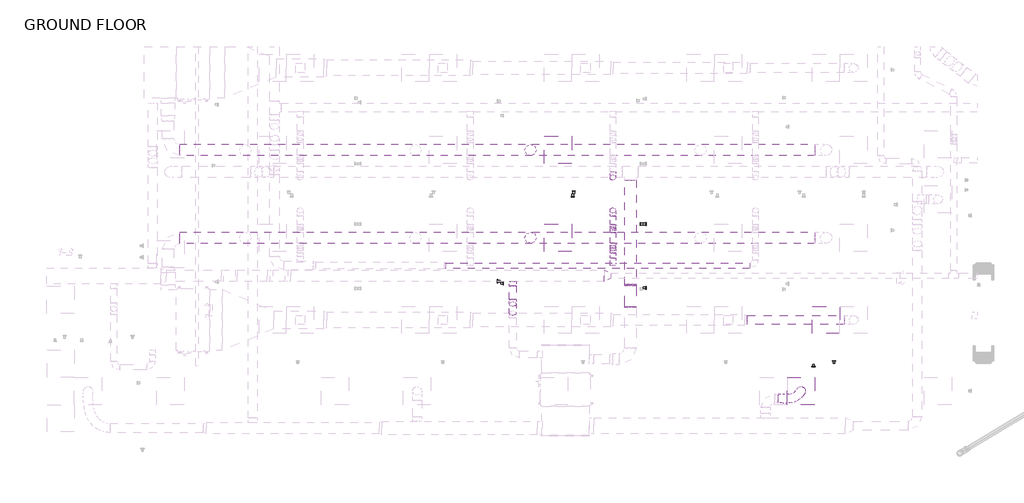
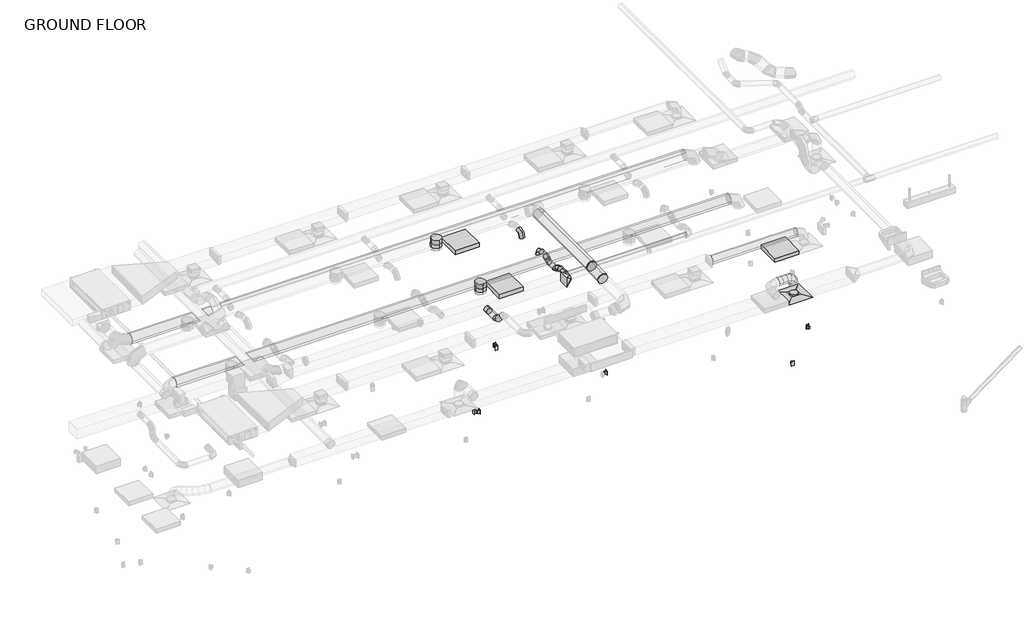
# One storey, part 5 of 22: 18 duct segments, 14 duct fittings, 7 proxies, 3 light fixtures, 1 air terminal, 1 electric appliance, 1 switching device.
"""IFC4 building model written with IfcOpenShell, lengths in millimetres."""

from ifc_helpers import new_model, si_unit, point, frame, frame_2d, origin, place, context, project, spatial, circle_curve, ellipse_curve, trimmed, segment, composite_curve, outline, extrude, transform, mapped, element, save
from ifc_brep_helpers import plane_surface, cylinder_surface, advanced_brep
from components import air_terminal_e9020785, duplex_receptacle_countertop_10251bba, rectangular_to_round_transition_angle_45_degree_43dd9c00, round_elbow_1_d_c80420c1, round_elbow_1_d_9a27e954, round_elbow_1_d_e3dc691b, round_elbow_1_d_e085309a, round_elbow_1_d_538d8ec8, round_elbow_1_d_400cd2ab, round_elbow_1_d_88736f48, round_takeoff_standard_0a2b6d05, round_takeoff_standard_c386a54e, round_takeoff_standard_c5a1f659, round_takeoff_standard_cae0fe22, telephone_outlet_data_plain_18c24199, troffer_corner_insert_2x2_3lamp_e67c7f8f

model = new_model("IFC4")

# Units and contexts
model_context = context("Model", 3, world=origin())
ifc_project = project(units=[si_unit("LENGTHUNIT", "METRE", prefix="MILLI")], contexts=[model_context])

# Site, building, storey
site = spatial("IfcSite", under=ifc_project)
building = spatial("IfcBuilding", under=site)
storey = spatial("IfcBuildingStorey", under=building, Name="GROUND FLOOR", Elevation=30480.0)

# Air terminal
placement = place(None, origin())
air_terminal_shape = air_terminal_e9020785(model_context)
element("IfcAirTerminal", 1, ObjectType="Supply Diffuser - Rectangular Face Round Neck - Hosted : 24\"x24\" Face 8\" Neck - Hosted", at=placement, inside=storey, context=model_context, shape_type="MappedRepresentation", body=[
    mapped(air_terminal_shape, transform((7163.7545393, -5809.2554995, 33223.2), x_axis=(0.0, -1.0, 0.0), y_axis=(-1.0, 0.0, 0.0), z_axis=(0.0, 0.0, -1.0))),
])

# Proxies
duplex_receptacle_countertop_shape = duplex_receptacle_countertop_10251bba(model_context)
element("IfcBuildingElementProxy", 2, Name="Duplex Receptacle : Countertop", ObjectType="Duplex Receptacle : Countertop", at=placement, inside=storey, context=model_context, shape_type="MappedRepresentation", body=[
    mapped(duplex_receptacle_countertop_shape, transform((3591.8795393, -2094.5054995, 30937.2), x_axis=(0.0, -1.0, 0.0), y_axis=(0.0, 0.0, 1.0), z_axis=(-1.0, 0.0, 0.0))),
])
element("IfcBuildingElementProxy", 3, Name="Duplex Receptacle : Countertop", ObjectType="Duplex Receptacle : Countertop", at=placement, inside=storey, context=model_context, shape_type="MappedRepresentation", body=[
    mapped(duplex_receptacle_countertop_shape, transform((3715.7045393, -2094.5054995, 30937.2), x_axis=(0.0, 1.0, 0.0), y_axis=(0.0, 0.0, 1.0), z_axis=(1.0, 0.0, 0.0))),
])
element("IfcBuildingElementProxy", 4, Name="Duplex Receptacle : Standard", ObjectType="Duplex Receptacle : Standard", at=placement, inside=storey, context=model_context, shape_type="MappedRepresentation", body=[
    mapped(duplex_receptacle_countertop_shape, transform((420.0545393, -3366.5857363, 30937.2), x_axis=(0.0, -1.0, 0.0), y_axis=(0.0, 0.0, 1.0), z_axis=(-1.0, 0.0, 0.0))),
])
element("IfcBuildingElementProxy", 5, Name="Duplex Receptacle : Standard", ObjectType="Duplex Receptacle : Standard", at=placement, inside=storey, context=model_context, shape_type="MappedRepresentation", body=[
    mapped(duplex_receptacle_countertop_shape, transform((2089.2187967, -1484.9054995, 30937.2), x_axis=(1.0, 0.0, 0.0), y_axis=(0.0, 0.0, 1.0), z_axis=(0.0, -1.0, 0.0))),
])
element("IfcBuildingElementProxy", 6, Name="Duplex Receptacle : Standard", ObjectType="Duplex Receptacle : Standard", at=placement, inside=storey, context=model_context, shape_type="MappedRepresentation", body=[
    mapped(duplex_receptacle_countertop_shape, transform((543.8795393, -3410.6637519, 30937.2), x_axis=(0.0, 1.0, 0.0), y_axis=(0.0, 0.0, 1.0), z_axis=(1.0, 0.0, 0.0))),
])
element("IfcBuildingElementProxy", 7, Name="Duplex Receptacle : Standard", ObjectType="Duplex Receptacle : Standard", at=placement, inside=storey, context=model_context, shape_type="MappedRepresentation", body=[
    mapped(duplex_receptacle_countertop_shape, transform((2111.2578044, -1361.0804995, 30937.2), x_axis=(-1.0, 0.0, 0.0), y_axis=(0.0, 0.0, 1.0), z_axis=(0.0, 1.0, 0.0))),
])
element("IfcBuildingElementProxy", 8, Name="Duplex Receptacle : Standard", ObjectType="Duplex Receptacle : Standard", at=placement, inside=storey, context=model_context, shape_type="MappedRepresentation", body=[
    mapped(duplex_receptacle_countertop_shape, transform((7444.6976826, -5266.3304995, 30937.2), x_axis=(1.0, 0.0, 0.0), y_axis=(0.0, 0.0, 1.0), z_axis=(0.0, -1.0, 0.0))),
])

# Duct fittings
rectangular_to_round_transition_angle_45_degree_shape = rectangular_to_round_transition_angle_45_degree_43dd9c00(model_context)
element("IfcDuctFitting", 9, ObjectType="Rectangular to Round Transition - Angle : 45 Degree", at=placement, inside=storey, context=model_context, shape_type="MappedRepresentation", body=[
    mapped(rectangular_to_round_transition_angle_45_degree_shape, transform((2787.255189, -3245.6216457, 33602.867541), x_axis=(1.0, 0.0, 0.0), y_axis=(0.0, 1.0, 0.0), z_axis=(0.0, 0.0, 1.0))),
])
round_elbow_1_d_shape = round_elbow_1_d_c80420c1(model_context)
element("IfcDuctFitting", 10, ObjectType="Round Elbow : 1 D", at=placement, inside=storey, context=model_context, shape_type="MappedRepresentation", body=[
    mapped(round_elbow_1_d_shape, transform((2982.2795393, -1056.2804995, 33477.2), x_axis=(0.0, -1.0, 0.0), y_axis=(0.0, 0.0, -1.0), z_axis=(1.0, 0.0, 0.0))),
])
round_elbow_1_d_2_shape = round_elbow_1_d_9a27e954(model_context)
element("IfcDuctFitting", 11, ObjectType="Round Elbow : 1 D", at=placement, inside=storey, context=model_context, shape_type="MappedRepresentation", body=[
    mapped(round_elbow_1_d_2_shape, transform((752.8182219, -3830.5749464, 33602.867541), x_axis=(0.0, -1.0, 0.0), y_axis=(0.0, 0.0, 1.0), z_axis=(-1.0, 0.0, 0.0))),
])
round_elbow_1_d_3_shape = round_elbow_1_d_e3dc691b(model_context)
element("IfcDuctFitting", 12, ObjectType="Round Elbow : 1 D", at=placement, inside=storey, context=model_context, shape_type="MappedRepresentation", body=[
    mapped(round_elbow_1_d_3_shape, transform((2982.2795393, -2571.0260053, 33410.2114474), x_axis=(0.0, 0.7071067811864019, -0.7071067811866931), y_axis=(0.0, 0.7071067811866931, 0.7071067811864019), z_axis=(1.0, 0.0, 0.0))),
])
element("IfcDuctFitting", 13, ObjectType="Round Elbow : 1 D", at=placement, inside=storey, context=model_context, shape_type="MappedRepresentation", body=[
    mapped(round_elbow_1_d_3_shape, transform((2982.2795393, -2688.8145579, 33528.0), x_axis=(0.0, -0.707106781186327, 0.7071067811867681), y_axis=(0.0, -0.7071067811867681, -0.707106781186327), z_axis=(1.0, 0.0, 0.0))),
])
round_elbow_1_d_4_shape = round_elbow_1_d_e085309a(model_context)
element("IfcDuctFitting", 14, ObjectType="Round Elbow : 1 D", at=placement, inside=storey, context=model_context, shape_type="MappedRepresentation", body=[
    mapped(round_elbow_1_d_4_shape, transform((3373.2082034, -3453.3930718, 33883.6), x_axis=(0.0, -1.0, 0.0), y_axis=(0.0, 0.0, -1.0), z_axis=(1.0, 0.0, 0.0))),
])
element("IfcDuctFitting", 15, ObjectType="Round Elbow : 1 D", at=placement, inside=storey, context=model_context, shape_type="MappedRepresentation", body=[
    mapped(round_elbow_1_d_4_shape, transform((3373.2082034, -3943.4269358, 33846.29375), x_axis=(0.0, 1.0, 0.0), y_axis=(0.0, 0.0, 1.0), z_axis=(1.0, 0.0, 0.0))),
])
round_elbow_1_d_5_shape = round_elbow_1_d_538d8ec8(model_context)
element("IfcDuctFitting", 16, ObjectType="Round Elbow : 1 D", at=placement, inside=storey, context=model_context, shape_type="MappedRepresentation", body=[
    mapped(round_elbow_1_d_5_shape, transform((2982.2795393, -2238.2198452, 33410.2114474), x_axis=(0.0, -0.8191520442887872, -0.5735764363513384), y_axis=(0.0, -0.5735764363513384, 0.8191520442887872), z_axis=(-1.0, 0.0, 0.0))),
])
round_elbow_1_d_6_shape = round_elbow_1_d_400cd2ab(model_context)
element("IfcDuctFitting", 17, ObjectType="Round Elbow : 1 D", at=placement, inside=storey, context=model_context, shape_type="MappedRepresentation", body=[
    mapped(round_elbow_1_d_6_shape, transform((2982.2795393, -1789.7054995, 33477.2), x_axis=(0.0, 1.0, 0.0), y_axis=(0.0, 0.0, 1.0), z_axis=(1.0, 0.0, 0.0))),
])
round_elbow_1_d_7_shape = round_elbow_1_d_88736f48(model_context)
element("IfcDuctFitting", 18, ObjectType="Round Elbow : 1 D", at=placement, inside=storey, context=model_context, shape_type="MappedRepresentation", body=[
    mapped(round_elbow_1_d_7_shape, transform((2982.2795393, -2142.5502773, 33477.2), x_axis=(0.0, -1.0, 0.0), y_axis=(0.0, 0.0, 1.0), z_axis=(-1.0, 0.0, 0.0))),
])
round_takeoff_standard_shape = round_takeoff_standard_0a2b6d05(model_context)
element("IfcDuctFitting", 19, ObjectType="Round Takeoff : Standard", at=placement, inside=storey, context=model_context, shape_type="MappedRepresentation", body=[
    mapped(round_takeoff_standard_shape, transform((752.8182219, -3372.6216457, 33602.867541), x_axis=(0.0, -1.0, 0.0), y_axis=(1.0, 0.0, 0.0), z_axis=(0.0, 0.0, 1.0))),
])
round_takeoff_standard_2_shape = round_takeoff_standard_c386a54e(model_context)
element("IfcDuctFitting", 20, ObjectType="Round Takeoff : Standard", at=placement, inside=storey, context=model_context, shape_type="MappedRepresentation", body=[
    mapped(round_takeoff_standard_2_shape, transform((1153.4795393, -446.6804995, 33490.69375), x_axis=(0.0, 0.0, -1.0), y_axis=(-1.0, 0.0, 0.0), z_axis=(0.0, 1.0, 0.0))),
])
round_takeoff_standard_3_shape = round_takeoff_standard_c5a1f659(model_context)
element("IfcDuctFitting", 21, ObjectType="Round Takeoff : Standard", at=placement, inside=storey, context=model_context, shape_type="MappedRepresentation", body=[
    mapped(round_takeoff_standard_3_shape, transform((1153.4795393, -2399.3054995, 33490.69375), x_axis=(0.0, 0.0, -1.0), y_axis=(-1.0, 0.0, 0.0), z_axis=(0.0, 1.0, 0.0))),
])
round_takeoff_standard_4_shape = round_takeoff_standard_cae0fe22(model_context)
element("IfcDuctFitting", 22, ObjectType="Round Takeoff : Standard", at=placement, inside=storey, context=model_context, shape_type="MappedRepresentation", body=[
    mapped(round_takeoff_standard_4_shape, transform((2982.2795393, -2955.5145579, 33528.0), x_axis=(0.0, 1.0, 0.0), y_axis=(1.0, 0.0, 0.0), z_axis=(0.0, 0.0, -1.0))),
])

# Duct segments
element("IfcDuctSegment", 23, ObjectType="Flex - Round", at=placement, inside=storey, context=model_context, shape_type="AdvancedBrep", body=[
    advanced_brep(
    [(6657.0154749, -5873.2850038, 33832.8), (6657.0154749, -5974.8850038, 33731.2), (6657.0154749, -6076.4850038, 33832.8), (6657.0154749, -5974.8850038, 33934.4), (6664.1604734, -5873.2850038, 33832.8), (6665.7378942, -5974.8850038, 33731.2), (6661.2728618, -6076.4850038, 33832.8), (6659.6954409, -5974.8850038, 33934.4), (7129.0124065, -5713.7801403, 33277.175), (7259.2298985, -5774.5133667, 33277.175), (7198.4966721, -5904.7308586, 33277.175), (7068.2791801, -5843.9976323, 33277.175), (6761.7393941, -5876.0613465, 33838.6096182), (6764.2748739, -5977.6886054, 33737.0666588), (6757.0979688, -6079.2114465, 33838.5052003), (6754.5624889, -5977.5841875, 33940.0481597), (6856.6277847, -5877.7028295, 33842.044493), (6852.1190413, -5979.2082298, 33740.246539), (6864.8566466, -6081.0755738, 33842.405968), (6869.3653901, -5979.5701735, 33944.203922), (6931.5454276, -5870.2568398, 33826.4432762), (6909.7778917, -5973.4775742, 33728.2393776), (6969.4566581, -6070.6794831, 33820.6235494), (6991.2241939, -5967.4587487, 33918.8274479), (6991.5818588, -5850.531499, 33783.6357716), (6953.2151869, -5959.2059823, 33697.2674799), (7053.4419158, -6043.0856073, 33760.7399215), (7091.8085877, -5934.411124, 33847.1082133), (7042.2601994, -5820.1278131, 33712.3335862), (6994.1395219, -5934.654061, 33639.6887492), (7113.2263536, -6007.2188593, 33676.6258598), (7161.3470311, -5892.6926114, 33749.2706968), (7081.4386198, -5784.4954246, 33618.3222411), (7027.690537, -5904.1397424, 33559.1807545), (7154.2398269, -5969.9175083, 33578.2111776), (7207.9879096, -5850.2731906, 33637.3526642), (7108.4914029, -5750.2738045, 33509.6614918), (7051.0725508, -5874.561625, 33465.2640908), (7180.3960787, -5936.8299952, 33473.1514537), (7237.8149309, -5812.5421747, 33517.5488548), (7124.0629565, -5724.2123836, 33393.9600667), (7064.2109738, -5852.5724273, 33367.6415734), (7194.3387271, -5913.4948009, 33369.5532945), (7254.1907099, -5785.1347572, 33395.8717878), (7129.0124065, -5713.7801403, 33291.4495769), (7068.2791801, -5843.9976323, 33283.3829523), (7198.4966721, -5904.7308586, 33283.4360529), (7259.2298985, -5774.5133667, 33291.5026776)],
    [
        (0, 1, circle_curve(frame((6657.0154749, -5974.8850038, 33832.8), z_axis=(-1.0, 0.0, 0.0), x_axis=(0.0, 1.0, 0.0)), 101.6)),
        (1, 2, circle_curve(frame((6657.0154749, -5974.8850038, 33832.8), z_axis=(-1.0, 0.0, 0.0), x_axis=(0.0, 1.0, 0.0)), 101.6)),
        (2, 3, circle_curve(frame((6657.0154749, -5974.8850038, 33832.8), z_axis=(-1.0, 0.0, 0.0), x_axis=(0.0, 1.0, 0.0)), 101.6)),
        (3, 0, circle_curve(frame((6657.0154749, -5974.8850038, 33832.8), z_axis=(-1.0, 0.0, 0.0), x_axis=(0.0, 1.0, 0.0)), 101.6)),
        (0, 4),
        (4, 5, ellipse_curve(frame((6662.7166676, -5974.8850038, 33832.8), z_axis=(-0.9994573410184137, 0.014202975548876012, -0.02972034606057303), x_axis=(-0.032939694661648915, -0.43094716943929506, 0.9017757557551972)), 101.6551641, 101.6)),
        (5, 1),
        (5, 6, ellipse_curve(frame((6662.7166676, -5974.8850038, 33832.8), z_axis=(-0.9994573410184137, 0.014202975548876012, -0.02972034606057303), x_axis=(-0.032939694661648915, -0.43094716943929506, 0.9017757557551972)), 101.6551641, 101.6)),
        (6, 2),
        (6, 7, ellipse_curve(frame((6662.7166676, -5974.8850038, 33832.8), z_axis=(-0.9994573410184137, 0.014202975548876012, -0.02972034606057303), x_axis=(-0.032939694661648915, -0.43094716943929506, 0.9017757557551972)), 101.6551641, 101.6)),
        (7, 3),
        (7, 4, ellipse_curve(frame((6662.7166676, -5974.8850038, 33832.8), z_axis=(-0.9994573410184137, 0.014202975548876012, -0.02972034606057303), x_axis=(-0.032939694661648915, -0.43094716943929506, 0.9017757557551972)), 101.6551641, 101.6)),
        (8, 9, circle_curve(frame((7163.7545393, -5809.2554995, 33277.175), z_axis=(0.0, 0.0, -1.0), x_axis=(-0.3419501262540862, 0.9397181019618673, 0.0)), 101.6)),
        (9, 10, circle_curve(frame((7163.7545393, -5809.2554995, 33277.175), z_axis=(0.0, 0.0, -1.0), x_axis=(-0.3419501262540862, 0.9397181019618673, 0.0)), 101.6)),
        (10, 11, circle_curve(frame((7163.7545393, -5809.2554995, 33277.175), z_axis=(0.0, 0.0, -1.0), x_axis=(-0.3419501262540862, 0.9397181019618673, 0.0)), 101.6)),
        (11, 8, circle_curve(frame((7163.7545393, -5809.2554995, 33277.175), z_axis=(0.0, 0.0, -1.0), x_axis=(-0.3419501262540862, 0.9397181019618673, 0.0)), 101.6)),
        (4, 12),
        (12, 13, ellipse_curve(frame((6759.4186814, -5977.6363965, 33838.5574093), z_axis=(-0.9985960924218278, 0.02283976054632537, -0.04779319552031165), x_axis=(0.05297021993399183, 0.43057581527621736, -0.9009986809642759)), 101.6084493, 101.6)),
        (13, 5),
        (13, 14, ellipse_curve(frame((6759.4186814, -5977.6363965, 33838.5574093), z_axis=(-0.9985960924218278, 0.02283976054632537, -0.04779319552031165), x_axis=(0.05297021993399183, 0.43057581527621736, -0.9009986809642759)), 101.6084493, 101.6)),
        (14, 6),
        (14, 15, ellipse_curve(frame((6759.4186814, -5977.6363965, 33838.5574093), z_axis=(-0.9985960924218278, 0.02283976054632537, -0.04779319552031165), x_axis=(0.05297021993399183, 0.43057581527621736, -0.9009986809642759)), 101.6084493, 101.6)),
        (15, 7),
        (15, 12, ellipse_curve(frame((6759.4186814, -5977.6363965, 33838.5574093), z_axis=(-0.9985960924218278, 0.02283976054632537, -0.04779319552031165), x_axis=(0.05297021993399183, 0.43057581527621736, -0.9009986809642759)), 101.6084493, 101.6)),
        (12, 16),
        (16, 17, ellipse_curve(frame((6860.7422157, -5979.3892016, 33842.2252305), z_axis=(-0.9956470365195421, -0.04013632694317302, 0.0841192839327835), x_axis=(-0.09320396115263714, 0.42892086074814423, -0.8985209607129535)), 102.5112915, 101.6)),
        (17, 13),
        (17, 18, ellipse_curve(frame((6860.7422157, -5979.3892016, 33842.2252305), z_axis=(-0.9956470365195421, -0.04013632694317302, 0.0841192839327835), x_axis=(-0.09320396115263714, 0.42892086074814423, -0.8985209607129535)), 102.5112915, 101.6)),
        (18, 14),
        (18, 19, ellipse_curve(frame((6860.7422157, -5979.3892016, 33842.2252305), z_axis=(-0.9956470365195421, -0.04013632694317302, 0.0841192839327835), x_axis=(-0.09320396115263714, 0.42892086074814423, -0.8985209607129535)), 102.5112915, 101.6)),
        (19, 15),
        (19, 16, ellipse_curve(frame((6860.7422157, -5979.3892016, 33842.2252305), z_axis=(-0.9956470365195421, -0.04013632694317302, 0.0841192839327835), x_axis=(-0.09320396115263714, 0.42892086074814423, -0.8985209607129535)), 102.5112915, 101.6)),
        (16, 20),
        (20, 21, ellipse_curve(frame((6950.5010428, -5970.4681614, 33823.5334128), z_axis=(-0.9021059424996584, -0.1820001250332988, 0.39125544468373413), x_axis=(-0.431492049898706, 0.37118796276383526, -0.8222129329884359)), 104.0957078, 101.6)),
        (21, 17),
        (21, 22, ellipse_curve(frame((6950.5010428, -5970.4681614, 33823.5334128), z_axis=(-0.9021059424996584, -0.1820001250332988, 0.39125544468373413), x_axis=(-0.431492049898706, 0.37118796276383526, -0.8222129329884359)), 104.0957078, 101.6)),
        (22, 18),
        (22, 23, ellipse_curve(frame((6950.5010428, -5970.4681614, 33823.5334128), z_axis=(-0.9021059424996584, -0.1820001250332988, 0.39125544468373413), x_axis=(-0.431492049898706, 0.37118796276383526, -0.8222129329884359)), 104.0957078, 101.6)),
        (23, 19),
        (23, 20, ellipse_curve(frame((6950.5010428, -5970.4681614, 33823.5334128), z_axis=(-0.9021059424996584, -0.1820001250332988, 0.39125544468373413), x_axis=(-0.431492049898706, 0.37118796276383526, -0.8222129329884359)), 104.0957078, 101.6)),
        (20, 24),
        (24, 25, ellipse_curve(frame((7022.5118873, -5946.8085531, 33772.1878466), z_axis=(-0.6758957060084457, -0.297324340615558, 0.6743613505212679), x_axis=(-0.7355448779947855, 0.21472022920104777, -0.6425487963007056)), 102.9719529, 101.6)),
        (25, 21),
        (25, 26, ellipse_curve(frame((7022.5118873, -5946.8085531, 33772.1878466), z_axis=(-0.6758957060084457, -0.297324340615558, 0.6743613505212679), x_axis=(-0.7355448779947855, 0.21472022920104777, -0.6425487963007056)), 102.9719529, 101.6)),
        (26, 22),
        (26, 27, ellipse_curve(frame((7022.5118873, -5946.8085531, 33772.1878466), z_axis=(-0.6758957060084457, -0.297324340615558, 0.6743613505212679), x_axis=(-0.7355448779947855, 0.21472022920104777, -0.6425487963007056)), 102.9719529, 101.6)),
        (27, 23),
        (27, 24, ellipse_curve(frame((7022.5118873, -5946.8085531, 33772.1878466), z_axis=(-0.6758957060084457, -0.297324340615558, 0.6743613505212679), x_axis=(-0.7355448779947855, 0.21472022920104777, -0.6425487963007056)), 102.9719529, 101.6)),
        (24, 28),
        (28, 29, ellipse_curve(frame((7077.7432765, -5913.6733362, 33694.479723), z_axis=(-0.457692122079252, -0.3310971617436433, 0.8251621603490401), x_axis=(-0.8760103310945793, 0.009199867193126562, -0.48220458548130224)), 102.1657648, 101.6)),
        (29, 25),
        (29, 30, ellipse_curve(frame((7077.7432765, -5913.6733362, 33694.479723), z_axis=(-0.457692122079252, -0.3310971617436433, 0.8251621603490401), x_axis=(-0.8760103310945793, 0.009199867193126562, -0.48220458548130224)), 102.1657648, 101.6)),
        (30, 26),
        (30, 31, ellipse_curve(frame((7077.7432765, -5913.6733362, 33694.479723), z_axis=(-0.457692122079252, -0.3310971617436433, 0.8251621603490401), x_axis=(-0.8760103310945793, 0.009199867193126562, -0.48220458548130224)), 102.1657648, 101.6)),
        (31, 27),
        (31, 28, ellipse_curve(frame((7077.7432765, -5913.6733362, 33694.479723), z_axis=(-0.457692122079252, -0.3310971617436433, 0.8251621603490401), x_axis=(-0.8760103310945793, 0.009199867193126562, -0.48220458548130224)), 102.1657648, 101.6)),
        (28, 32),
        (32, 33, ellipse_curve(frame((7117.8392233, -5877.2064665, 33598.2667093), z_axis=(-0.2978920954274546, -0.31211207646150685, 0.9021343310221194), x_axis=(-0.8883127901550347, -0.2553802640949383, -0.3816822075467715)), 101.881816, 101.6)),
        (33, 29),
        (33, 34, ellipse_curve(frame((7117.8392233, -5877.2064665, 33598.2667093), z_axis=(-0.2978920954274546, -0.31211207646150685, 0.9021343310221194), x_axis=(-0.8883127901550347, -0.2553802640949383, -0.3816822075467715)), 101.881816, 101.6)),
        (34, 30),
        (34, 35, ellipse_curve(frame((7117.8392233, -5877.2064665, 33598.2667093), z_axis=(-0.2978920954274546, -0.31211207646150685, 0.9021343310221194), x_axis=(-0.8883127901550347, -0.2553802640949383, -0.3816822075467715)), 101.881816, 101.6)),
        (35, 31),
        (35, 32, ellipse_curve(frame((7117.8392233, -5877.2064665, 33598.2667093), z_axis=(-0.2978920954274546, -0.31211207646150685, 0.9021343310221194), x_axis=(-0.8883127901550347, -0.2553802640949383, -0.3816822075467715)), 101.881816, 101.6)),
        (32, 36),
        (36, 37, ellipse_curve(frame((7144.4437408, -5843.5518998, 33491.4064728), z_axis=(-0.18100034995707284, -0.25562117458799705, 0.9496824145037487), x_axis=(-0.7679988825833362, -0.5664544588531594, -0.2988428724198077)), 101.8197707, 101.6)),
        (37, 33),
        (37, 38, ellipse_curve(frame((7144.4437408, -5843.5518998, 33491.4064728), z_axis=(-0.18100034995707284, -0.25562117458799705, 0.9496824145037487), x_axis=(-0.7679988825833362, -0.5664544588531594, -0.2988428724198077)), 101.8197707, 101.6)),
        (38, 34),
        (38, 39, ellipse_curve(frame((7144.4437408, -5843.5518998, 33491.4064728), z_axis=(-0.18100034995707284, -0.25562117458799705, 0.9496824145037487), x_axis=(-0.7679988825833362, -0.5664544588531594, -0.2988428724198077)), 101.8197707, 101.6)),
        (39, 35),
        (39, 36, ellipse_curve(frame((7144.4437408, -5843.5518998, 33491.4064728), z_axis=(-0.18100034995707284, -0.25562117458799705, 0.9496824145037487), x_axis=(-0.7679988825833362, -0.5664544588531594, -0.2988428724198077)), 101.8197707, 101.6)),
        (36, 40),
        (40, 41, ellipse_curve(frame((7159.2008418, -5818.8535922, 33381.7566806), z_axis=(-0.08931381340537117, -0.15992202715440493, 0.9830808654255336), x_axis=(-0.5660673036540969, -0.803969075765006, -0.18221287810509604)), 101.8688525, 101.6)),
        (41, 37),
        (41, 42, ellipse_curve(frame((7159.2008418, -5818.8535922, 33381.7566806), z_axis=(-0.08931381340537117, -0.15992202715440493, 0.9830808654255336), x_axis=(-0.5660673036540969, -0.803969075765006, -0.18221287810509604)), 101.8688525, 101.6)),
        (42, 38),
        (42, 43, ellipse_curve(frame((7159.2008418, -5818.8535922, 33381.7566806), z_axis=(-0.08931381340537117, -0.15992202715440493, 0.9830808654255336), x_axis=(-0.5660673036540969, -0.803969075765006, -0.18221287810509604)), 101.8688525, 101.6)),
        (43, 39),
        (43, 40, ellipse_curve(frame((7159.2008418, -5818.8535922, 33381.7566806), z_axis=(-0.08931381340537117, -0.15992202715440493, 0.9830808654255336), x_axis=(-0.5660673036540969, -0.803969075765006, -0.18221287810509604)), 101.8688525, 101.6)),
        (40, 44),
        (44, 45, ellipse_curve(frame((7163.7545393, -5809.2554995, 33287.4428149), z_axis=(-0.024027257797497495, -0.05064364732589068, 0.9984277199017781), x_axis=(-0.42796835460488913, -0.9020537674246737, -0.056054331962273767)), 101.7599952, 101.6)),
        (45, 41),
        (45, 46, ellipse_curve(frame((7163.7545393, -5809.2554995, 33287.4428149), z_axis=(-0.024027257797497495, -0.05064364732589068, 0.9984277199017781), x_axis=(-0.42796835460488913, -0.9020537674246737, -0.056054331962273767)), 101.7599952, 101.6)),
        (46, 42),
        (46, 47, ellipse_curve(frame((7163.7545393, -5809.2554995, 33287.4428149), z_axis=(-0.024027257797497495, -0.05064364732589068, 0.9984277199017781), x_axis=(-0.42796835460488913, -0.9020537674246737, -0.056054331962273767)), 101.7599952, 101.6)),
        (47, 43),
        (47, 44, ellipse_curve(frame((7163.7545393, -5809.2554995, 33287.4428149), z_axis=(-0.024027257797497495, -0.05064364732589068, 0.9984277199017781), x_axis=(-0.42796835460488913, -0.9020537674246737, -0.056054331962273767)), 101.7599952, 101.6)),
        (44, 8),
        (11, 45),
        (10, 46),
        (9, 47),
    ],
    [
        plane_surface(frame((6657.0154749, -5974.8850038, 33731.2), z_axis=(-1.0, 0.0, 0.0), x_axis=(0.0, 1.0, 0.0))),
        cylinder_surface(frame((6657.0154749, -5974.8850038, 33832.8), z_axis=(-1.0, 0.0, 0.0), x_axis=(0.0, 1.0, 0.0)), 101.6),
        plane_surface(frame((7163.7545393, -5910.8554995, 33277.175), z_axis=(0.0, 0.0, -1.0), x_axis=(-1.0, 0.0, 0.0))),
        cylinder_surface(frame((6662.7166676, -5974.8850038, 33832.8), z_axis=(-0.9978299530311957, 0.02839053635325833, -0.05940843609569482), x_axis=(0.028390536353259, 0.9995965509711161, 0.0008442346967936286)), 101.6),
        cylinder_surface(frame((6759.4186814, -5977.6363965, 33838.5574093), z_axis=(-0.9991961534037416, 0.017285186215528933, -0.03617000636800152), x_axis=(0.0172851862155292, 0.9998505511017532, 0.00031272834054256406)), 101.6),
        cylinder_surface(frame((6860.7422157, -5979.3892016, 33842.2252305), z_axis=(-0.974395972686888, -0.0968442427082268, 0.2029129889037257), x_axis=(-0.09684377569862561, 0.9952498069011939, 0.00995514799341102)), 101.6),
        cylinder_surface(frame((6950.5010428, -5970.4681614, 33823.5334128), z_axis=(-0.7865597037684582, -0.25842905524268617, 0.5608371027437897), x_axis=(-0.25900135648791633, 0.9625344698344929, 0.08028506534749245)), 101.6),
        cylinder_surface(frame((7022.5118873, -5946.8085531, 33772.1878466), z_axis=(-0.5472210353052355, -0.328296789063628, 0.7699158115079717), x_axis=(-0.3360343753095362, 0.9286478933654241, 0.15714321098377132)), 101.6),
        cylinder_surface(frame((7077.7432765, -5913.6733362, 33694.479723), z_axis=(-0.3630940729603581, -0.33023049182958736, 0.8712694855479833), x_axis=(-0.35800704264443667, 0.9127527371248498, 0.1967572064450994)), 101.6),
        cylinder_surface(frame((7117.8392233, -5877.2064665, 33598.2667093), z_axis=(-0.23104211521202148, -0.29226699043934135, 0.9280083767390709), x_axis=(-0.3584433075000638, 0.9122956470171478, 0.19807838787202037)), 101.6),
        cylinder_surface(frame((7144.4437408, -5843.5518998, 33491.4064728), z_axis=(-0.13017723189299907, -0.21787187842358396, 0.9672568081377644), x_axis=(-0.35128009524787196, 0.9224120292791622, 0.16049405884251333)), 101.6),
        cylinder_surface(frame((7159.2008418, -5818.8535922, 33381.7566806), z_axis=(-0.047978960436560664, -0.10112804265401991, 0.993715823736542), x_axis=(-0.3438422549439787, 0.935729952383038, 0.07862544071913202)), 101.6),
        cylinder_surface(frame((7163.7545393, -5809.2554995, 33287.4428149), z_axis=(0.0, 0.0, 1.0), x_axis=(-0.3419501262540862, 0.9397181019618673, 0.0)), 101.6),
    ],
    [
        (0, [[1, 2, 3, 4]]),
        (1, [[-1, 5, 6, 7]]),
        (1, [[-2, -7, 8, 9]]),
        (1, [[-3, -9, 10, 11]]),
        (1, [[-4, -11, 12, -5]]),
        (2, [[13, 14, 15, 16]]),
        (3, [[-6, 17, 18, 19]]),
        (3, [[-8, -19, 20, 21]]),
        (3, [[-10, -21, 22, 23]]),
        (3, [[-12, -23, 24, -17]]),
        (4, [[-18, 25, 26, 27]]),
        (4, [[-20, -27, 28, 29]]),
        (4, [[-22, -29, 30, 31]]),
        (4, [[-24, -31, 32, -25]]),
        (5, [[-26, 33, 34, 35]]),
        (5, [[-28, -35, 36, 37]]),
        (5, [[-30, -37, 38, 39]]),
        (5, [[-32, -39, 40, -33]]),
        (6, [[-34, 41, 42, 43]]),
        (6, [[-36, -43, 44, 45]]),
        (6, [[-38, -45, 46, 47]]),
        (6, [[-40, -47, 48, -41]]),
        (7, [[-42, 49, 50, 51]]),
        (7, [[-44, -51, 52, 53]]),
        (7, [[-46, -53, 54, 55]]),
        (7, [[-48, -55, 56, -49]]),
        (8, [[-50, 57, 58, 59]]),
        (8, [[-52, -59, 60, 61]]),
        (8, [[-54, -61, 62, 63]]),
        (8, [[-56, -63, 64, -57]]),
        (9, [[-58, 65, 66, 67]]),
        (9, [[-60, -67, 68, 69]]),
        (9, [[-62, -69, 70, 71]]),
        (9, [[-64, -71, 72, -65]]),
        (10, [[-66, 73, 74, 75]]),
        (10, [[-68, -75, 76, 77]]),
        (10, [[-70, -77, 78, 79]]),
        (10, [[-72, -79, 80, -73]]),
        (11, [[-74, 81, 82, 83]]),
        (11, [[-76, -83, 84, 85]]),
        (11, [[-78, -85, 86, 87]]),
        (11, [[-80, -87, 88, -81]]),
        (12, [[-82, 89, -16, 90]]),
        (12, [[-84, -90, -15, 91]]),
        (12, [[-86, -91, -14, 92]]),
        (12, [[-88, -92, -13, -89]]),
    ],
),
])
element("IfcDuctSegment", 24, ObjectType="Taps / Short Radius", at=placement, inside=storey, context=model_context, shape_type="SweptSolid", body=[
    extrude(outline(composite_curve([segment(trimmed(circle_curve(frame_2d((-4228.1054995, 33604.2)), 101.6), [point((-4126.5054995, 33604.2))], [point((-4228.1054995, 33502.6))], False, "CARTESIAN"), True, "CONTINUOUS"), segment(trimmed(circle_curve(frame_2d((-4228.1054995, 33604.2)), 101.6), [point((-4228.1054995, 33502.6))], [point((-4329.7054995, 33604.2))], False, "CARTESIAN"), True, "CONTINUOUS"), segment(trimmed(circle_curve(frame_2d((-4228.1054995, 33604.2)), 101.6), [point((-4329.7054995, 33604.2))], [point((-4228.1054995, 33705.8))], False, "CARTESIAN"), True, "CONTINUOUS"), segment(trimmed(circle_curve(frame_2d((-4228.1054995, 33604.2)), 101.6), [point((-4228.1054995, 33705.8))], [point((-4126.5054995, 33604.2))], False, "CARTESIAN"), True, "CONTINUOUS")], self_intersect=False)), frame((5972.1335148, 0.0, 0.0), z_axis=(1.0, 0.0, 0.0), x_axis=(0.0, 1.0, 0.0)), (0.0, 0.0, 1.0), 2159.9960245),
])
element("IfcDuctSegment", 25, ObjectType="Taps / Short Radius", at=placement, inside=storey, context=model_context, shape_type="SweptSolid", body=[
    extrude(outline(composite_curve([segment(trimmed(circle_curve(frame_2d((33883.6, 3373.2082034)), 127.0), [point((33883.6, 3500.2082034))], [point((34010.6, 3373.2082034))], False, "CARTESIAN"), True, "CONTINUOUS"), segment(trimmed(circle_curve(frame_2d((33883.6, 3373.2082034)), 127.0), [point((34010.6, 3373.2082034))], [point((33883.6, 3246.2082034))], False, "CARTESIAN"), True, "CONTINUOUS"), segment(trimmed(circle_curve(frame_2d((33883.6, 3373.2082034)), 127.0), [point((33883.6, 3246.2082034))], [point((33756.6, 3373.2082034))], False, "CARTESIAN"), True, "CONTINUOUS"), segment(trimmed(circle_curve(frame_2d((33883.6, 3373.2082034)), 127.0), [point((33756.6, 3373.2082034))], [point((33883.6, 3500.2082034))], False, "CARTESIAN"), True, "CONTINUOUS")], self_intersect=False)), frame((0.0, -3443.7385377, 0.0), z_axis=(0.0, 1.0, 0.0), x_axis=(0.0, 0.0, 1.0)), (0.0, 0.0, 1.0), 2333.4830382),
])
element("IfcDuctSegment", 26, ObjectType="Taps / Short Radius", at=placement, inside=storey, context=model_context, shape_type="SweptSolid", body=[
    extrude(outline(composite_curve([segment(trimmed(circle_curve(frame_2d((1153.4795393, -2399.3054995)), 127.0), [point((1026.4795393, -2399.3054995))], [point((1153.4795393, -2272.3054995))], False, "CARTESIAN"), True, "CONTINUOUS"), segment(trimmed(circle_curve(frame_2d((1153.4795393, -2399.3054995)), 127.0), [point((1153.4795393, -2272.3054995))], [point((1280.4795393, -2399.3054995))], False, "CARTESIAN"), True, "CONTINUOUS"), segment(trimmed(circle_curve(frame_2d((1153.4795393, -2399.3054995)), 127.0), [point((1280.4795393, -2399.3054995))], [point((1153.4795393, -2526.3054995))], False, "CARTESIAN"), True, "CONTINUOUS"), segment(trimmed(circle_curve(frame_2d((1153.4795393, -2399.3054995)), 127.0), [point((1153.4795393, -2526.3054995))], [point((1026.4795393, -2399.3054995))], False, "CARTESIAN"), True, "CONTINUOUS")], self_intersect=False)), frame((0.0, 0.0, 33324.8), z_axis=(0.0, 0.0, 1.0), x_axis=(1.0, 0.0, 0.0)), (0.0, 0.0, 1.0), 64.29375),
])
element("IfcDuctSegment", 27, ObjectType="Taps / Short Radius", at=placement, inside=storey, context=model_context, shape_type="SweptSolid", body=[
    extrude(outline(composite_curve([segment(trimmed(circle_curve(frame_2d((-2399.3054995, 33617.69375)), 127.0), [point((-2272.3054995, 33617.69375))], [point((-2399.3054995, 33490.69375))], False, "CARTESIAN"), True, "CONTINUOUS"), segment(trimmed(circle_curve(frame_2d((-2399.3054995, 33617.69375)), 127.0), [point((-2399.3054995, 33490.69375))], [point((-2526.3054995, 33617.69375))], False, "CARTESIAN"), True, "CONTINUOUS"), segment(trimmed(circle_curve(frame_2d((-2399.3054995, 33617.69375)), 127.0), [point((-2526.3054995, 33617.69375))], [point((-2399.3054995, 33744.69375))], False, "CARTESIAN"), True, "CONTINUOUS"), segment(trimmed(circle_curve(frame_2d((-2399.3054995, 33617.69375)), 127.0), [point((-2399.3054995, 33744.69375))], [point((-2272.3054995, 33617.69375))], False, "CARTESIAN"), True, "CONTINUOUS")], self_intersect=False)), frame((-6651.278652, 0.0, 0.0), z_axis=(1.0, 0.0, 0.0), x_axis=(0.0, 1.0, 0.0)), (0.0, 0.0, 1.0), 14123.0081913),
])
element("IfcDuctSegment", 28, ObjectType="Taps / Short Radius", at=placement, inside=storey, context=model_context, shape_type="SweptSolid", body=[
    extrude(outline(composite_curve([segment(trimmed(circle_curve(frame_2d((-446.6804995, 33617.69375)), 127.0), [point((-319.6804995, 33617.69375))], [point((-446.6804995, 33490.69375))], False, "CARTESIAN"), True, "CONTINUOUS"), segment(trimmed(circle_curve(frame_2d((-446.6804995, 33617.69375)), 127.0), [point((-446.6804995, 33490.69375))], [point((-573.6804995, 33617.69375))], False, "CARTESIAN"), True, "CONTINUOUS"), segment(trimmed(circle_curve(frame_2d((-446.6804995, 33617.69375)), 127.0), [point((-573.6804995, 33617.69375))], [point((-446.6804995, 33744.69375))], False, "CARTESIAN"), True, "CONTINUOUS"), segment(trimmed(circle_curve(frame_2d((-446.6804995, 33617.69375)), 127.0), [point((-446.6804995, 33744.69375))], [point((-319.6804995, 33617.69375))], False, "CARTESIAN"), True, "CONTINUOUS")], self_intersect=False)), frame((-6653.4143044, 0.0, 0.0), z_axis=(1.0, 0.0, 0.0), x_axis=(0.0, 1.0, 0.0)), (0.0, 0.0, 1.0), 14125.1438437),
])
element("IfcDuctSegment", 29, ObjectType="Taps / Short Radius", at=placement, inside=storey, context=model_context, shape_type="SweptSolid", body=[
    extrude(outline(composite_curve([segment(trimmed(circle_curve(frame_2d((1153.4795393, -446.6804995)), 127.0), [point((1026.4795393, -446.6804995))], [point((1153.4795393, -319.6804995))], False, "CARTESIAN"), True, "CONTINUOUS"), segment(trimmed(circle_curve(frame_2d((1153.4795393, -446.6804995)), 127.0), [point((1153.4795393, -319.6804995))], [point((1280.4795393, -446.6804995))], False, "CARTESIAN"), True, "CONTINUOUS"), segment(trimmed(circle_curve(frame_2d((1153.4795393, -446.6804995)), 127.0), [point((1280.4795393, -446.6804995))], [point((1153.4795393, -573.6804995))], False, "CARTESIAN"), True, "CONTINUOUS"), segment(trimmed(circle_curve(frame_2d((1153.4795393, -446.6804995)), 127.0), [point((1153.4795393, -573.6804995))], [point((1026.4795393, -446.6804995))], False, "CARTESIAN"), True, "CONTINUOUS")], self_intersect=False)), frame((0.0, 0.0, 33324.8), z_axis=(0.0, 0.0, 1.0), x_axis=(1.0, 0.0, 0.0)), (0.0, 0.0, 1.0), 64.29375),
])
element("IfcDuctSegment", 30, ObjectType="Taps / Short Radius", at=placement, inside=storey, context=model_context, shape_type="SweptSolid", body=[
    extrude(outline(composite_curve([segment(trimmed(circle_curve(frame_2d((0.0, -127.0)), 127.0), [point((-127.0, -127.0))], [point((0.0, 0.0))], False, "CARTESIAN"), True, "CONTINUOUS"), segment(trimmed(circle_curve(frame_2d((0.0, -127.0)), 127.0), [point((0.0, 0.0))], [point((127.0, -127.0))], False, "CARTESIAN"), True, "CONTINUOUS"), segment(trimmed(circle_curve(frame_2d((0.0, -127.0)), 127.0), [point((127.0, -127.0))], [point((0.0, -254.0))], False, "CARTESIAN"), True, "CONTINUOUS"), segment(trimmed(circle_curve(frame_2d((0.0, -127.0)), 127.0), [point((0.0, -254.0))], [point((-127.0, -127.0))], False, "CARTESIAN"), True, "CONTINUOUS")], self_intersect=False)), frame((3373.2082034, -3924.1596527, 33720.3930676), z_axis=(0.0, 0.9971146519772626, 0.07591028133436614), x_axis=(1.0, 0.0, 0.0)), (0.0, 0.0, 1.0), 472.1428056),
])
element("IfcDuctSegment", 31, ObjectType="Taps / Short Radius", at=placement, inside=storey, context=model_context, shape_type="SweptSolid", body=[
    extrude(outline(composite_curve([segment(trimmed(circle_curve(frame_2d((33602.867541, 752.8182219)), 76.2), [point((33602.867541, 676.6182219))], [point((33526.667541, 752.8182219))], False, "CARTESIAN"), True, "CONTINUOUS"), segment(trimmed(circle_curve(frame_2d((33602.867541, 752.8182219)), 76.2), [point((33526.667541, 752.8182219))], [point((33602.867541, 829.0182219))], False, "CARTESIAN"), True, "CONTINUOUS"), segment(trimmed(circle_curve(frame_2d((33602.867541, 752.8182219)), 76.2), [point((33602.867541, 829.0182219))], [point((33679.067541, 752.8182219))], False, "CARTESIAN"), True, "CONTINUOUS"), segment(trimmed(circle_curve(frame_2d((33602.867541, 752.8182219)), 76.2), [point((33679.067541, 752.8182219))], [point((33602.867541, 676.6182219))], False, "CARTESIAN"), True, "CONTINUOUS")], self_intersect=False)), frame((0.0, -3767.4487995, 0.0), z_axis=(0.0, 1.0, 0.0), x_axis=(0.0, 0.0, 1.0)), (0.0, 0.0, 1.0), 293.2271538),
])
element("IfcDuctSegment", 32, ObjectType="Taps / Short Radius", at=placement, inside=storey, context=model_context, shape_type="SweptSolid", body=[
    extrude(outline(composite_curve([segment(trimmed(circle_curve(frame_2d((0.0, 76.2)), 76.2), [point((-76.2, 76.2))], [point((0.0, 152.4))], False, "CARTESIAN"), True, "CONTINUOUS"), segment(trimmed(circle_curve(frame_2d((0.0, 76.2)), 76.2), [point((0.0, 152.4))], [point((76.2, 76.2))], False, "CARTESIAN"), True, "CONTINUOUS"), segment(trimmed(circle_curve(frame_2d((0.0, 76.2)), 76.2), [point((76.2, 76.2))], [point((0.0, 0.0))], False, "CARTESIAN"), True, "CONTINUOUS"), segment(trimmed(circle_curve(frame_2d((0.0, 76.2)), 76.2), [point((0.0, 0.0))], [point((-76.2, 76.2))], False, "CARTESIAN"), True, "CONTINUOUS")], self_intersect=False)), frame((752.8182219, -3929.0934097, 33593.6229308), z_axis=(0.0, -0.7071067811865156, 0.7071067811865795), x_axis=(1.0, 0.0, 0.0)), (0.0, 0.0, 1.0), 280.8661453),
])
element("IfcDuctSegment", 33, ObjectType="Taps / Short Radius", at=placement, inside=storey, context=model_context, shape_type="SweptSolid", body=[
    extrude(outline(composite_curve([segment(trimmed(circle_curve(frame_2d((-3019.0145579, 33528.0)), 63.5), [point((-2955.5145579, 33528.0))], [point((-3019.0145579, 33464.5))], False, "CARTESIAN"), True, "CONTINUOUS"), segment(trimmed(circle_curve(frame_2d((-3019.0145579, 33528.0)), 63.5), [point((-3019.0145579, 33464.5))], [point((-3082.5145579, 33528.0))], False, "CARTESIAN"), True, "CONTINUOUS"), segment(trimmed(circle_curve(frame_2d((-3019.0145579, 33528.0)), 63.5), [point((-3082.5145579, 33528.0))], [point((-3019.0145579, 33591.5))], False, "CARTESIAN"), True, "CONTINUOUS"), segment(trimmed(circle_curve(frame_2d((-3019.0145579, 33528.0)), 63.5), [point((-3019.0145579, 33591.5))], [point((-2955.5145579, 33528.0))], False, "CARTESIAN"), True, "CONTINUOUS")], self_intersect=False)), frame((-731.976464, 0.0, 0.0), z_axis=(1.0, 0.0, 0.0), x_axis=(0.0, 1.0, 0.0)), (0.0, 0.0, 1.0), 6759.0810033),
])
element("IfcDuctSegment", 34, ObjectType="Taps / Short Radius", at=placement, inside=storey, context=model_context, shape_type="SweptSolid", body=[
    extrude(outline(composite_curve([segment(trimmed(circle_curve(frame_2d((2982.2795393, -1056.2804995)), 63.5), [point((2918.7795393, -1056.2804995))], [point((2982.2795393, -992.7804995))], False, "CARTESIAN"), True, "CONTINUOUS"), segment(trimmed(circle_curve(frame_2d((2982.2795393, -1056.2804995)), 63.5), [point((2982.2795393, -992.7804995))], [point((3045.7795393, -1056.2804995))], False, "CARTESIAN"), True, "CONTINUOUS"), segment(trimmed(circle_curve(frame_2d((2982.2795393, -1056.2804995)), 63.5), [point((3045.7795393, -1056.2804995))], [point((2982.2795393, -1119.7804995))], False, "CARTESIAN"), True, "CONTINUOUS"), segment(trimmed(circle_curve(frame_2d((2982.2795393, -1056.2804995)), 63.5), [point((2982.2795393, -1119.7804995))], [point((2918.7795393, -1056.2804995))], False, "CARTESIAN"), True, "CONTINUOUS")], self_intersect=False)), frame((0.0, 0.0, 33324.8), z_axis=(0.0, 0.0, 1.0), x_axis=(1.0, 0.0, 0.0)), (0.0, 0.0, 1.0), 25.4),
])
element("IfcDuctSegment", 35, ObjectType="Taps / Short Radius", at=placement, inside=storey, context=model_context, shape_type="SweptSolid", body=[
    extrude(outline(composite_curve([segment(trimmed(circle_curve(frame_2d((2982.2795393, -1789.7054995)), 63.5), [point((3045.7795393, -1789.7054995))], [point((2982.2795393, -1853.2054995))], False, "CARTESIAN"), True, "CONTINUOUS"), segment(trimmed(circle_curve(frame_2d((2982.2795393, -1789.7054995)), 63.5), [point((2982.2795393, -1853.2054995))], [point((2918.7795393, -1789.7054995))], False, "CARTESIAN"), True, "CONTINUOUS"), segment(trimmed(circle_curve(frame_2d((2982.2795393, -1789.7054995)), 63.5), [point((2918.7795393, -1789.7054995))], [point((2982.2795393, -1726.2054995))], False, "CARTESIAN"), True, "CONTINUOUS"), segment(trimmed(circle_curve(frame_2d((2982.2795393, -1789.7054995)), 63.5), [point((2982.2795393, -1726.2054995))], [point((3045.7795393, -1789.7054995))], False, "CARTESIAN"), True, "CONTINUOUS")], self_intersect=False)), frame((0.0, 0.0, 33324.8), z_axis=(0.0, 0.0, 1.0), x_axis=(1.0, 0.0, 0.0)), (0.0, 0.0, 1.0), 25.4),
])
element("IfcDuctSegment", 36, ObjectType="Taps / Short Radius", at=placement, inside=storey, context=model_context, shape_type="SweptSolid", body=[
    extrude(outline(composite_curve([segment(trimmed(circle_curve(frame_2d((33477.2, 2982.2795393)), 63.5), [point((33477.2, 2918.7795393))], [point((33413.7, 2982.2795393))], False, "CARTESIAN"), True, "CONTINUOUS"), segment(trimmed(circle_curve(frame_2d((33477.2, 2982.2795393)), 63.5), [point((33413.7, 2982.2795393))], [point((33477.2, 3045.7795393))], False, "CARTESIAN"), True, "CONTINUOUS"), segment(trimmed(circle_curve(frame_2d((33477.2, 2982.2795393)), 63.5), [point((33477.2, 3045.7795393))], [point((33540.7, 2982.2795393))], False, "CARTESIAN"), True, "CONTINUOUS"), segment(trimmed(circle_curve(frame_2d((33477.2, 2982.2795393)), 63.5), [point((33540.7, 2982.2795393))], [point((33477.2, 2918.7795393))], False, "CARTESIAN"), True, "CONTINUOUS")], self_intersect=False)), frame((0.0, -2102.5073311, 0.0), z_axis=(0.0, 1.0, 0.0), x_axis=(0.0, 0.0, 1.0)), (0.0, 0.0, 1.0), 185.8018317),
])
element("IfcDuctSegment", 37, ObjectType="Taps / Short Radius", at=placement, inside=storey, context=model_context, shape_type="SweptSolid", body=[
    extrude(outline(composite_curve([segment(trimmed(circle_curve(frame_2d((0.0, -63.5)), 63.5), [point((-63.5, -63.5))], [point((0.0, 0.0))], False, "CARTESIAN"), True, "CONTINUOUS"), segment(trimmed(circle_curve(frame_2d((0.0, -63.5)), 63.5), [point((0.0, 0.0))], [point((63.5, -63.5))], False, "CARTESIAN"), True, "CONTINUOUS"), segment(trimmed(circle_curve(frame_2d((0.0, -63.5)), 63.5), [point((63.5, -63.5))], [point((0.0, -127.0))], False, "CARTESIAN"), True, "CONTINUOUS"), segment(trimmed(circle_curve(frame_2d((0.0, -63.5)), 63.5), [point((0.0, -127.0))], [point((-63.5, -63.5))], False, "CARTESIAN"), True, "CONTINUOUS")], self_intersect=False)), frame((2982.2795393, -2168.9964802, 33381.162983), z_axis=(0.0, 0.819152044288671, 0.5735764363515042), x_axis=(1.0, 0.0, 0.0)), (0.0, 0.0, 1.0), 36.7050849),
])
element("IfcDuctSegment", 38, ObjectType="Taps / Short Radius", at=placement, inside=storey, context=model_context, shape_type="SweptSolid", body=[
    extrude(outline(composite_curve([segment(trimmed(circle_curve(frame_2d((33528.0, 2982.2795393)), 63.5), [point((33528.0, 2918.7795393))], [point((33464.5, 2982.2795393))], False, "CARTESIAN"), True, "CONTINUOUS"), segment(trimmed(circle_curve(frame_2d((33528.0, 2982.2795393)), 63.5), [point((33464.5, 2982.2795393))], [point((33528.0, 3045.7795393))], False, "CARTESIAN"), True, "CONTINUOUS"), segment(trimmed(circle_curve(frame_2d((33528.0, 2982.2795393)), 63.5), [point((33528.0, 3045.7795393))], [point((33591.5, 2982.2795393))], False, "CARTESIAN"), True, "CONTINUOUS"), segment(trimmed(circle_curve(frame_2d((33528.0, 2982.2795393)), 63.5), [point((33591.5, 2982.2795393))], [point((33528.0, 2918.7795393))], False, "CARTESIAN"), True, "CONTINUOUS")], self_intersect=False)), frame((0.0, -2853.9145579, 0.0), z_axis=(0.0, 1.0, 0.0), x_axis=(0.0, 0.0, 1.0)), (0.0, 0.0, 1.0), 112.4948776),
])
element("IfcDuctSegment", 39, ObjectType="Taps / Short Radius", at=placement, inside=storey, context=model_context, shape_type="SweptSolid", body=[
    extrude(outline(composite_curve([segment(trimmed(circle_curve(frame_2d((0.0, -63.5)), 63.5), [point((63.5, -63.5))], [point((0.0, -127.0))], False, "CARTESIAN"), True, "CONTINUOUS"), segment(trimmed(circle_curve(frame_2d((0.0, -63.5)), 63.5), [point((0.0, -127.0))], [point((-63.5, -63.5))], False, "CARTESIAN"), True, "CONTINUOUS"), segment(trimmed(circle_curve(frame_2d((0.0, -63.5)), 63.5), [point((-63.5, -63.5))], [point((0.0, 0.0))], False, "CARTESIAN"), True, "CONTINUOUS"), segment(trimmed(circle_curve(frame_2d((0.0, -63.5)), 63.5), [point((0.0, 0.0))], [point((63.5, -63.5))], False, "CARTESIAN"), True, "CONTINUOUS")], self_intersect=False)), frame((2982.2795393, -2563.3221635, 33492.3101668), z_axis=(0.0, -0.7071067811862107, 0.7071067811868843), x_axis=(1.0, 0.0, 0.0)), (0.0, 0.0, 1.0), 61.3679237),
])
element("IfcDuctSegment", 40, ObjectType="Taps / Short Radius", at=placement, inside=storey, context=model_context, shape_type="SweptSolid", body=[
    extrude(outline(composite_curve([segment(trimmed(circle_curve(frame_2d((33410.2114474, 2982.2795393)), 63.5), [point((33410.2114474, 2918.7795393))], [point((33346.7114474, 2982.2795393))], False, "CARTESIAN"), True, "CONTINUOUS"), segment(trimmed(circle_curve(frame_2d((33410.2114474, 2982.2795393)), 63.5), [point((33346.7114474, 2982.2795393))], [point((33410.2114474, 3045.7795393))], False, "CARTESIAN"), True, "CONTINUOUS"), segment(trimmed(circle_curve(frame_2d((33410.2114474, 2982.2795393)), 63.5), [point((33410.2114474, 3045.7795393))], [point((33473.7114474, 2982.2795393))], False, "CARTESIAN"), True, "CONTINUOUS"), segment(trimmed(circle_curve(frame_2d((33410.2114474, 2982.2795393)), 63.5), [point((33473.7114474, 2982.2795393))], [point((33410.2114474, 2918.7795393))], False, "CARTESIAN"), True, "CONTINUOUS")], self_intersect=False)), frame((0.0, -2518.4208829, 0.0), z_axis=(0.0, 1.0, 0.0), x_axis=(0.0, 0.0, 1.0)), (0.0, 0.0, 1.0), 240.1580915),
])

# Electric appliance
telephone_outlet_data_plain_shape = telephone_outlet_data_plain_18c24199(model_context)
element("IfcElectricAppliance", 41, ObjectType="Telephone Outlet - Data : Plain", at=placement, inside=storey, context=model_context, shape_type="MappedRepresentation", body=[
    mapped(telephone_outlet_data_plain_shape, transform((3715.7045393, -2632.4888836, 30079.95), x_axis=(0.0, 1.0, 0.0), y_axis=(0.0, 0.0, 1.0), z_axis=(1.0, 0.0, 0.0))),
])

# Light fixtures
troffer_corner_insert_2x2_3lamp_shape = troffer_corner_insert_2x2_3lamp_e67c7f8f(model_context)
element("IfcLightFixture", 42, ObjectType="Troffer Corner Insert : 2x2 3Lamp", at=placement, inside=storey, context=model_context, shape_type="MappedRepresentation", body=[
    mapped(troffer_corner_insert_2x2_3lamp_shape, transform((1763.0795393, -446.6804995, 30784.8), x_axis=(1.0, 0.0, 0.0), y_axis=(0.0, 1.0, 0.0), z_axis=(0.0, 0.0, 1.0))),
])
element("IfcLightFixture", 43, ObjectType="Troffer Corner Insert : 2x2 3Lamp", at=placement, inside=storey, context=model_context, shape_type="MappedRepresentation", body=[
    mapped(troffer_corner_insert_2x2_3lamp_shape, transform((1763.0795393, -2399.3054995, 30784.8), x_axis=(1.0, 0.0, 0.0), y_axis=(0.0, 1.0, 0.0), z_axis=(0.0, 0.0, 1.0))),
])
element("IfcLightFixture", 44, ObjectType="Troffer Corner Insert : 2x2 3Lamp", at=placement, inside=storey, context=model_context, shape_type="MappedRepresentation", body=[
    mapped(troffer_corner_insert_2x2_3lamp_shape, transform((7725.7295393, -4228.1054995, 30784.8), x_axis=(1.0, 0.0, 0.0), y_axis=(0.0, 1.0, 0.0), z_axis=(0.0, 0.0, 1.0))),
])

# Switching device
element("IfcSwitchingDevice", 45, ObjectType="Lighting Switches - Occupancy Sensor : Occupancy Sensor", at=placement, inside=storey, context=model_context, shape_type="MappedRepresentation", body=[
    mapped(duplex_receptacle_countertop_shape, transform((7898.1231716, -5142.5054995, 31699.2), x_axis=(-1.0, 0.0, 0.0), y_axis=(0.0, 0.0, 1.0), z_axis=(0.0, 1.0, 0.0))),
])

save(model, "model.ifc")
